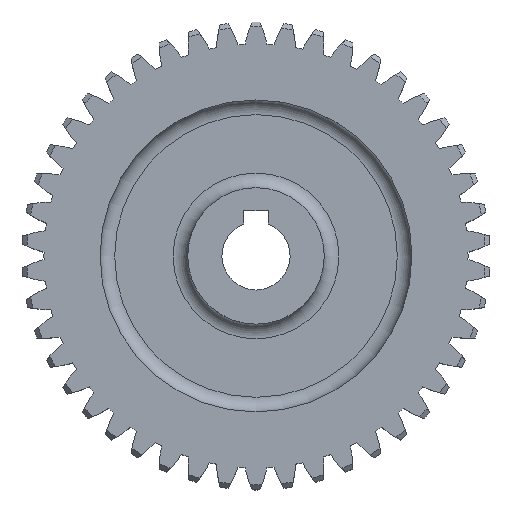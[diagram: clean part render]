
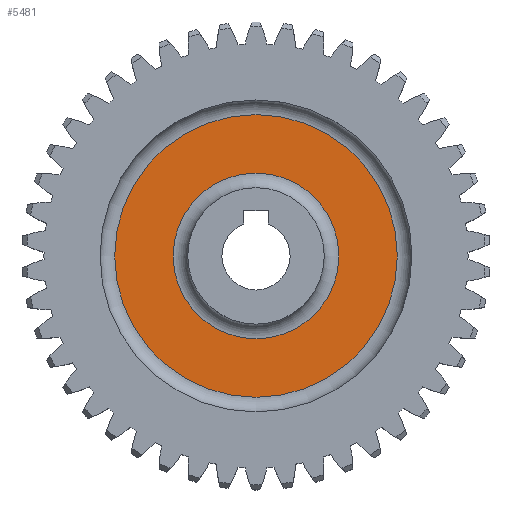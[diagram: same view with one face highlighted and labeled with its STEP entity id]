
A CAD part, top view. The second image highlights one B-rep face of the part: STEP entity #5481.
In plain terms, the highlighted planar face has unit normal (0, 0, 1).
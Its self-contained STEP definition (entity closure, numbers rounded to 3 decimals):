
#117=FACE_BOUND('',#902,.T.);
#127=PLANE('',#6273);
#601=FACE_OUTER_BOUND('',#901,.T.);
#901=EDGE_LOOP('',(#4960));
#902=EDGE_LOOP('',(#4961));
#1789=CIRCLE('',#6272,17.);
#1790=CIRCLE('',#6274,29.);
#2374=VERTEX_POINT('',#10333);
#2375=VERTEX_POINT('',#10337);
#3240=EDGE_CURVE('',#2374,#2374,#1789,.T.);
#3241=EDGE_CURVE('',#2375,#2375,#1790,.T.);
#4960=ORIENTED_EDGE('',*,*,#3241,.T.);
#4961=ORIENTED_EDGE('',*,*,#3240,.F.);
#5481=ADVANCED_FACE('',(#601,#117),#127,.F.);
#6272=AXIS2_PLACEMENT_3D('',#10335,#8012,#8013);
#6273=AXIS2_PLACEMENT_3D('',#10336,#8014,#8015);
#6274=AXIS2_PLACEMENT_3D('',#10338,#8016,#8017);
#8012=DIRECTION('center_axis',(0.,0.,1.));
#8013=DIRECTION('ref_axis',(1.,0.,0.));
#8014=DIRECTION('center_axis',(0.,0.,-1.));
#8015=DIRECTION('ref_axis',(-1.,0.,0.));
#8016=DIRECTION('center_axis',(0.,0.,1.));
#8017=DIRECTION('ref_axis',(1.,0.,0.));
#10333=CARTESIAN_POINT('',(-17.,0.,3.));
#10335=CARTESIAN_POINT('Origin',(0.,0.,3.));
#10336=CARTESIAN_POINT('Origin',(0.,29.,3.));
#10337=CARTESIAN_POINT('',(-29.,0.,3.));
#10338=CARTESIAN_POINT('Origin',(0.,0.,3.));
